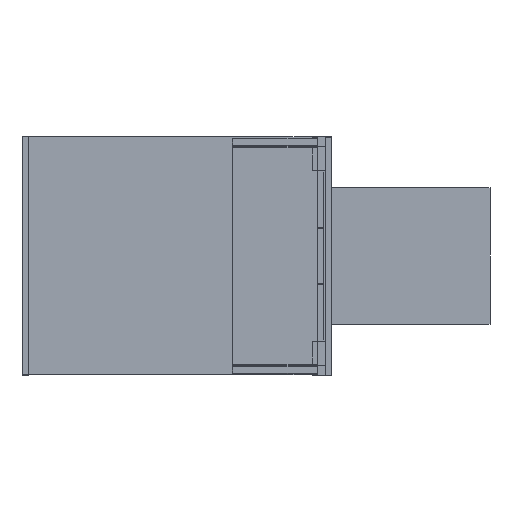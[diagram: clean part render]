
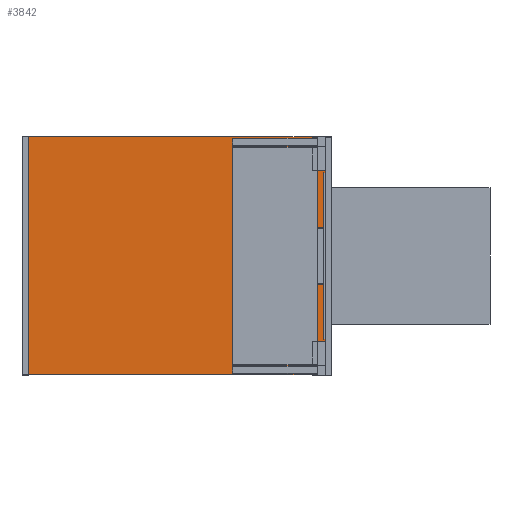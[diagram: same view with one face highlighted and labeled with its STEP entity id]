
A CAD part, left-side view. The second image highlights one B-rep face of the part: STEP entity #3842.
In plain terms, the highlighted planar face has unit normal (-1, 0, 0) as drawn and (0, 0, 1) by its records, which use the part's own axes.
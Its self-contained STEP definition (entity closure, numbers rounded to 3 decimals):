
#76 = ORIENTED_EDGE ( 'NONE', *, *, #1833, .F. ) ;
#450 = AXIS2_PLACEMENT_3D ( 'NONE', #4189, #3380, #891 ) ;
#535 = FACE_OUTER_BOUND ( 'NONE', #4262, .T. ) ;
#658 = VERTEX_POINT ( 'NONE', #1444 ) ;
#738 = ORIENTED_EDGE ( 'NONE', *, *, #3832, .T. ) ;
#813 = DIRECTION ( 'NONE',  ( 0., -1., 0. ) ) ;
#891 = DIRECTION ( 'NONE',  ( -1., 0., 0. ) ) ;
#902 = VERTEX_POINT ( 'NONE', #1720 ) ;
#934 = EDGE_CURVE ( 'NONE', #4699, #658, #2991, .T. ) ;
#982 = CIRCLE ( 'NONE', #2116, 0.2 ) ;
#997 = EDGE_CURVE ( 'NONE', #902, #2497, #1853, .T. ) ;
#1227 = CARTESIAN_POINT ( 'NONE',  ( -148.176, 457.687, 0. ) ) ;
#1241 = ORIENTED_EDGE ( 'NONE', *, *, #2912, .T. ) ;
#1361 = DIRECTION ( 'NONE',  ( 0., 0., 1. ) ) ;
#1399 = DIRECTION ( 'NONE',  ( -1., 0., 0. ) ) ;
#1412 = DIRECTION ( 'NONE',  ( 0., 1., 0. ) ) ;
#1444 = CARTESIAN_POINT ( 'NONE',  ( -455.976, 457.487, 0. ) ) ;
#1650 = CARTESIAN_POINT ( 'NONE',  ( -148.376, 73.887, 0. ) ) ;
#1720 = CARTESIAN_POINT ( 'NONE',  ( -148.376, 73.687, 0. ) ) ;
#1769 = CARTESIAN_POINT ( 'NONE',  ( -455.776, 73.887, 0. ) ) ;
#1794 = CARTESIAN_POINT ( 'NONE',  ( -455.976, 457.687, 0. ) ) ;
#1810 = CARTESIAN_POINT ( 'NONE',  ( -148.376, 457.487, 0. ) ) ;
#1833 = EDGE_CURVE ( 'NONE', #4699, #5290, #4019, .T. ) ;
#1853 = CIRCLE ( 'NONE', #4889, 0.2 ) ;
#2017 = CARTESIAN_POINT ( 'NONE',  ( -455.776, 457.687, 0. ) ) ;
#2116 = AXIS2_PLACEMENT_3D ( 'NONE', #1810, #4718, #1399 ) ;
#2130 = VERTEX_POINT ( 'NONE', #3669 ) ;
#2201 = CARTESIAN_POINT ( 'NONE',  ( -148.176, 73.687, 0. ) ) ;
#2249 = AXIS2_PLACEMENT_3D ( 'NONE', #2201, #5147, #3862 ) ;
#2409 = EDGE_CURVE ( 'NONE', #2883, #658, #3000, .T. ) ;
#2497 = VERTEX_POINT ( 'NONE', #4765 ) ;
#2508 = ORIENTED_EDGE ( 'NONE', *, *, #934, .T. ) ;
#2654 = VECTOR ( 'NONE', #813, 1000. ) ;
#2727 = CARTESIAN_POINT ( 'NONE',  ( -148.176, 457.687, 0. ) ) ;
#2790 = ORIENTED_EDGE ( 'NONE', *, *, #3482, .F. ) ;
#2856 = DIRECTION ( 'NONE',  ( 0., 0., 1. ) ) ;
#2883 = VERTEX_POINT ( 'NONE', #4752 ) ;
#2912 = EDGE_CURVE ( 'NONE', #2130, #5290, #982, .T. ) ;
#2929 = CARTESIAN_POINT ( 'NONE',  ( -148.376, 457.687, 0. ) ) ;
#2991 = CIRCLE ( 'NONE', #450, 0.2 ) ;
#3000 = LINE ( 'NONE', #1794, #3038 ) ;
#3032 = VERTEX_POINT ( 'NONE', #3572 ) ;
#3038 = VECTOR ( 'NONE', #1412, 1000. ) ;
#3082 = DIRECTION ( 'NONE',  ( -1., 0., 0. ) ) ;
#3290 = ORIENTED_EDGE ( 'NONE', *, *, #997, .T. ) ;
#3380 = DIRECTION ( 'NONE',  ( 0., 0., 1. ) ) ;
#3467 = VECTOR ( 'NONE', #4872, 1000. ) ;
#3482 = EDGE_CURVE ( 'NONE', #902, #3032, #3623, .T. ) ;
#3485 = PLANE ( 'NONE',  #2249 ) ;
#3527 = VECTOR ( 'NONE', #5284, 1000. ) ;
#3572 = CARTESIAN_POINT ( 'NONE',  ( -455.776, 73.687, 0. ) ) ;
#3623 = LINE ( 'NONE', #5287, #3467 ) ;
#3669 = CARTESIAN_POINT ( 'NONE',  ( -148.176, 457.487, 0. ) ) ;
#3832 = EDGE_CURVE ( 'NONE', #2883, #3032, #4600, .T. ) ;
#3842 = ADVANCED_FACE ( 'NONE', ( #535 ), #3485, .F. ) ;
#3862 = DIRECTION ( 'NONE',  ( -1., 0., 0. ) ) ;
#3930 = ORIENTED_EDGE ( 'NONE', *, *, #4681, .F. ) ;
#4019 = LINE ( 'NONE', #2727, #3527 ) ;
#4189 = CARTESIAN_POINT ( 'NONE',  ( -455.776, 457.487, 0. ) ) ;
#4221 = ORIENTED_EDGE ( 'NONE', *, *, #2409, .F. ) ;
#4262 = EDGE_LOOP ( 'NONE', ( #4221, #738, #2790, #3290, #3930, #1241, #76, #2508 ) ) ;
#4600 = CIRCLE ( 'NONE', #5389, 0.2 ) ;
#4681 = EDGE_CURVE ( 'NONE', #2130, #2497, #4962, .T. ) ;
#4699 = VERTEX_POINT ( 'NONE', #2017 ) ;
#4718 = DIRECTION ( 'NONE',  ( 0., 0., 1. ) ) ;
#4752 = CARTESIAN_POINT ( 'NONE',  ( -455.976, 73.887, 0. ) ) ;
#4765 = CARTESIAN_POINT ( 'NONE',  ( -148.176, 73.887, 0. ) ) ;
#4872 = DIRECTION ( 'NONE',  ( -1., 0., 0. ) ) ;
#4889 = AXIS2_PLACEMENT_3D ( 'NONE', #1650, #2856, #5302 ) ;
#4962 = LINE ( 'NONE', #1227, #2654 ) ;
#5147 = DIRECTION ( 'NONE',  ( 0., 0., -1. ) ) ;
#5284 = DIRECTION ( 'NONE',  ( 1., 0., 0. ) ) ;
#5287 = CARTESIAN_POINT ( 'NONE',  ( -148.176, 73.687, 0. ) ) ;
#5290 = VERTEX_POINT ( 'NONE', #2929 ) ;
#5302 = DIRECTION ( 'NONE',  ( -1., 0., 0. ) ) ;
#5389 = AXIS2_PLACEMENT_3D ( 'NONE', #1769, #1361, #3082 ) ;
